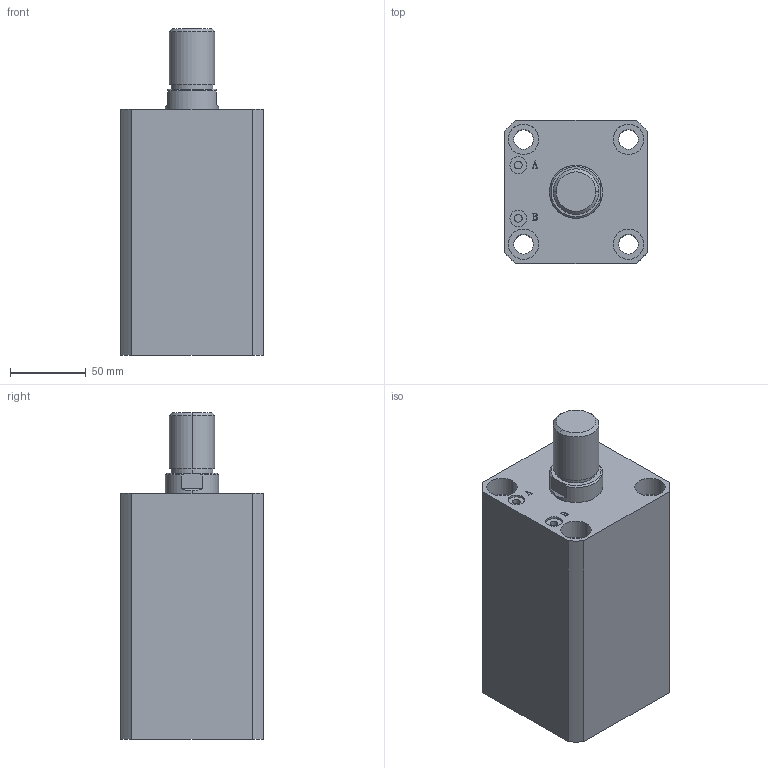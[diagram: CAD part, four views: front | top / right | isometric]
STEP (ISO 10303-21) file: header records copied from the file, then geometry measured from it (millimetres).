
FILE_DESCRIPTION (( 'STEP AP203' ), '1' );
FILE_NAME ('HTB-SDMA63-95W.STEP', '2019-10-08T01:16:53', ( '微软用户' ), ( '微软中国' ), 'SwSTEP 2.0', 'SolidWorks 2012', '' );
FILE_SCHEMA (( 'CONFIG_CONTROL_DESIGN' ));
Length unit declared in the file: millimetre
Products named in the file (3): HTB-SDMA63-95W; HTB-SDMA63-95W活塞杆; HTB-SDMA63-95掛极
Assembly tree (2 placements, depth 2):
  HTB-SDMA63-95W
    HTB-SDMA63-95掛极
    HTB-SDMA63-95W活塞杆
Bounding box: 94 x 94 x 215 mm (x, y, z)
Volume: 1144224.9 mm3; surface area: 163202.8 mm2
Topology: 2 solids, 2 shells, 141 faces, 337 edges, 222 vertices
Faces by surface type: plane 67, cylinder 48, bspline 16, torus 6, cone 4
Entity records: 5176 total; most frequent: CARTESIAN_POINT 1593, ORIENTED_EDGE 674, DIRECTION 669, EDGE_CURVE 337, AXIS2_PLACEMENT_3D 242, VERTEX_POINT 222, VECTOR 185, LINE 185
